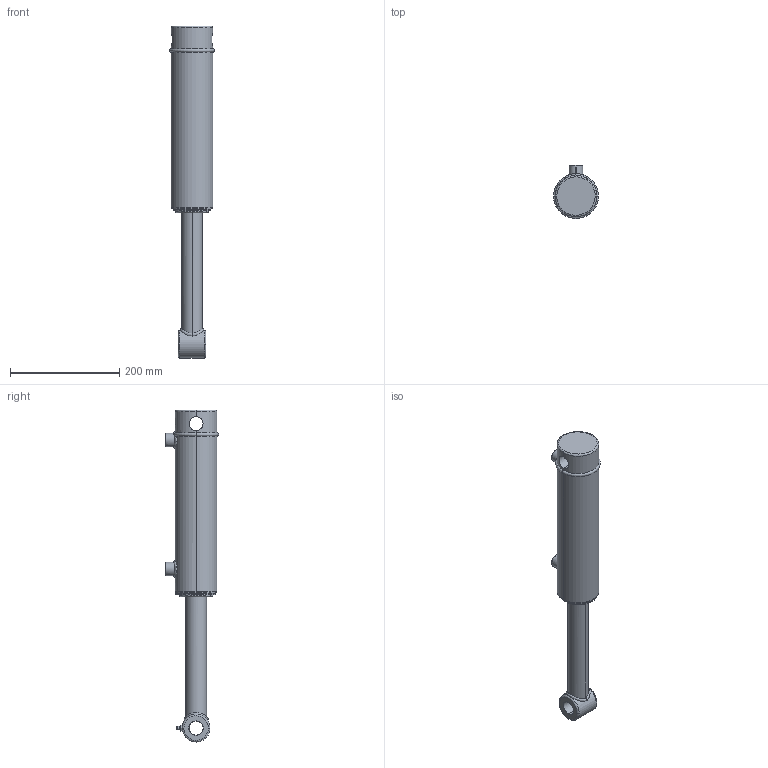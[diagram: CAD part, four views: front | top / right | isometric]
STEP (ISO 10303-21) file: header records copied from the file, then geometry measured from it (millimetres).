
FILE_DESCRIPTION (( 'STEP AP203' ), '1' );
FILE_NAME ('SB-C250150x203 (8) extended.STEP', '2014-11-18T22:05:04', ( '' ), ( '' ), 'SwSTEP 2.0', 'SolidWorks 2014', '' );
FILE_SCHEMA (( 'CONFIG_CONTROL_DESIGN' ));
Length unit declared in the file: millimetre
Products named in the file (7): 18 NPT GREASE NIPPLE; SB-C250250X203 (8) BODY; 2.5 INCH CIRCLIP; SB-C250150x203 (8) BODY; SPARE 8; 8 SPARE; SB-C250150x203 (8) extended
Assembly tree (6 placements, depth 3):
  SB-C250150x203 (8) extended
    SB-C250150x203 (8) BODY
      SB-C250250X203 (8) BODY
      2.5 INCH CIRCLIP
    SPARE 8
      8 SPARE
      18 NPT GREASE NIPPLE
Bounding box: 82.2 x 97.2 x 607.4 mm (x, y, z)
Volume: 1644774 mm3; surface area: 185239.4 mm2
Topology: 4 solids, 4 shells, 135 faces, 315 edges, 197 vertices
Faces by surface type: cylinder 51, plane 29, cone 22, bspline 19, torus 12, sphere 2
Entity records: 10875 total; most frequent: CARTESIAN_POINT 7141, DIRECTION 640, ORIENTED_EDGE 622, EDGE_CURVE 311, AXIS2_PLACEMENT_3D 271, VERTEX_POINT 197, EDGE_LOOP 160, CIRCLE 144
